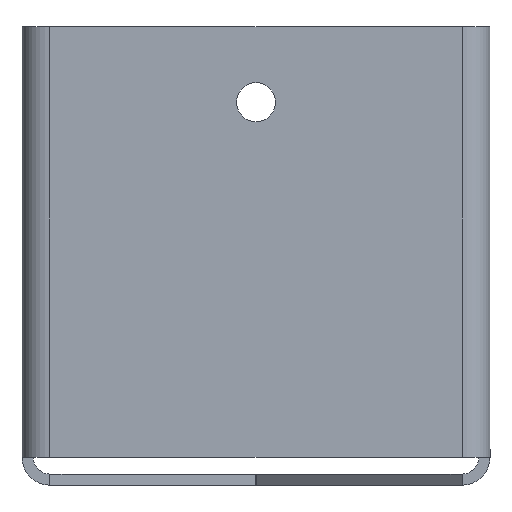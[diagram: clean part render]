
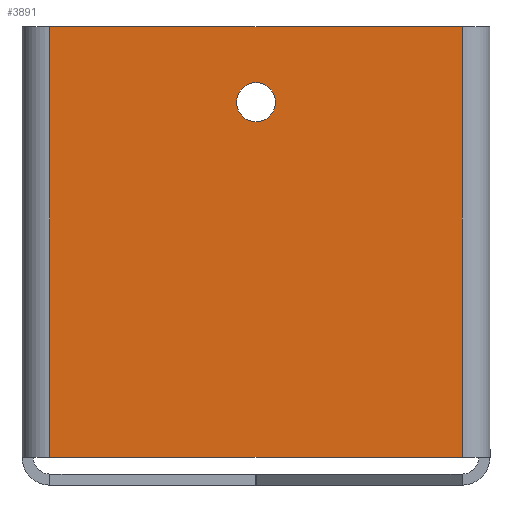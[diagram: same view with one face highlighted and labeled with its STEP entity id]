
A CAD part, front view. The second image highlights one B-rep face of the part: STEP entity #3891.
In plain terms, the highlighted planar face has unit normal (0, -1, 0).
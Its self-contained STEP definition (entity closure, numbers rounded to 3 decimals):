
#40 = ORIENTED_EDGE ( 'NONE', *, *, #1489, .T. ) ;
#109 = FACE_OUTER_BOUND ( 'NONE', #3125, .T. ) ;
#242 = CARTESIAN_POINT ( 'NONE',  ( 190., 0., 26.5 ) ) ;
#258 = CARTESIAN_POINT ( 'NONE',  ( 153.142, 0., -37. ) ) ;
#385 = DIRECTION ( 'NONE',  ( 0., 1., 0. ) ) ;
#398 = VERTEX_POINT ( 'NONE', #3606 ) ;
#480 = CARTESIAN_POINT ( 'NONE',  ( 0., 0., 40. ) ) ;
#502 = CARTESIAN_POINT ( 'NONE',  ( 226.858, 0., -37. ) ) ;
#531 = CARTESIAN_POINT ( 'NONE',  ( 153.142, 0., 0. ) ) ;
#571 = DIRECTION ( 'NONE',  ( 0., 1., 0. ) ) ;
#636 = EDGE_CURVE ( 'NONE', #1326, #3682, #1482, .T. ) ;
#639 = DIRECTION ( 'NONE',  ( 0., 0., 1. ) ) ;
#701 = ORIENTED_EDGE ( 'NONE', *, *, #636, .F. ) ;
#749 = EDGE_CURVE ( 'NONE', #2859, #1326, #1035, .T. ) ;
#767 = CARTESIAN_POINT ( 'NONE',  ( 153.142, 0., 40. ) ) ;
#795 = AXIS2_PLACEMENT_3D ( 'NONE', #1957, #385, #639 ) ;
#800 = EDGE_CURVE ( 'NONE', #3682, #1804, #842, .T. ) ;
#842 = LINE ( 'NONE', #531, #3500 ) ;
#864 = VERTEX_POINT ( 'NONE', #881 ) ;
#881 = CARTESIAN_POINT ( 'NONE',  ( 190., 0., 23. ) ) ;
#993 = EDGE_LOOP ( 'NONE', ( #3554, #40 ) ) ;
#1035 = LINE ( 'NONE', #2702, #2060 ) ;
#1151 = AXIS2_PLACEMENT_3D ( 'NONE', #242, #571, #4054 ) ;
#1189 = VECTOR ( 'NONE', #3945, 1000. ) ;
#1241 = DIRECTION ( 'NONE',  ( 0., 0., -1. ) ) ;
#1326 = VERTEX_POINT ( 'NONE', #502 ) ;
#1482 = LINE ( 'NONE', #3255, #1189 ) ;
#1489 = EDGE_CURVE ( 'NONE', #864, #398, #1574, .T. ) ;
#1574 = CIRCLE ( 'NONE', #1151, 3.5 ) ;
#1618 = LINE ( 'NONE', #480, #3443 ) ;
#1689 = AXIS2_PLACEMENT_3D ( 'NONE', #2180, #3733, #1241 ) ;
#1804 = VERTEX_POINT ( 'NONE', #767 ) ;
#1822 = DIRECTION ( 'NONE',  ( 0., 0., -1. ) ) ;
#1957 = CARTESIAN_POINT ( 'NONE',  ( 190., 0., 26.5 ) ) ;
#2060 = VECTOR ( 'NONE', #1822, 1000. ) ;
#2180 = CARTESIAN_POINT ( 'NONE',  ( 0., 0., 0. ) ) ;
#2340 = CARTESIAN_POINT ( 'NONE',  ( 226.858, 0., 40. ) ) ;
#2475 = ORIENTED_EDGE ( 'NONE', *, *, #749, .F. ) ;
#2525 = FACE_BOUND ( 'NONE', #993, .T. ) ;
#2702 = CARTESIAN_POINT ( 'NONE',  ( 226.858, 0., 0. ) ) ;
#2823 = EDGE_CURVE ( 'NONE', #1804, #2859, #1618, .T. ) ;
#2859 = VERTEX_POINT ( 'NONE', #2340 ) ;
#3125 = EDGE_LOOP ( 'NONE', ( #2475, #4010, #3740, #701 ) ) ;
#3255 = CARTESIAN_POINT ( 'NONE',  ( 240., 0., -37. ) ) ;
#3385 = EDGE_CURVE ( 'NONE', #398, #864, #3734, .T. ) ;
#3430 = PLANE ( 'NONE',  #1689 ) ;
#3443 = VECTOR ( 'NONE', #3621, 1000. ) ;
#3500 = VECTOR ( 'NONE', #3674, 1000. ) ;
#3554 = ORIENTED_EDGE ( 'NONE', *, *, #3385, .T. ) ;
#3606 = CARTESIAN_POINT ( 'NONE',  ( 190., 0., 30. ) ) ;
#3621 = DIRECTION ( 'NONE',  ( 1., 0., 0. ) ) ;
#3674 = DIRECTION ( 'NONE',  ( 0., 0., 1. ) ) ;
#3682 = VERTEX_POINT ( 'NONE', #258 ) ;
#3733 = DIRECTION ( 'NONE',  ( 0., -1., 0. ) ) ;
#3734 = CIRCLE ( 'NONE', #795, 3.5 ) ;
#3740 = ORIENTED_EDGE ( 'NONE', *, *, #800, .F. ) ;
#3891 = ADVANCED_FACE ( 'NONE', ( #109, #2525 ), #3430, .T. ) ;
#3945 = DIRECTION ( 'NONE',  ( -1., 0., 0. ) ) ;
#4010 = ORIENTED_EDGE ( 'NONE', *, *, #2823, .F. ) ;
#4054 = DIRECTION ( 'NONE',  ( 0., 0., 1. ) ) ;
